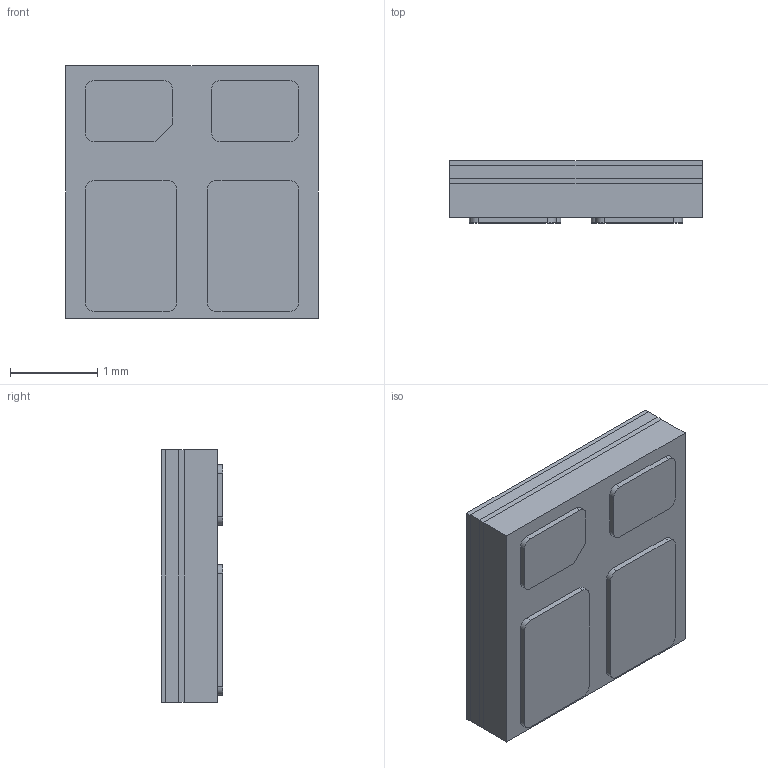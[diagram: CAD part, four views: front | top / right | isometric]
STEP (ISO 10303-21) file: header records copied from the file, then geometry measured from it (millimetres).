
FILE_DESCRIPTION (( 'STEP AP203' ), '1' );
FILE_NAME ('HFL2.STEP', '2019-05-06T06:36:58', ( 'user' ), ( '' ), 'SwSTEP 2.0', 'SolidWorks 2016', '' );
FILE_SCHEMA (( 'CONFIG_CONTROL_DESIGN' ));
Length unit declared in the file: millimetre
Products named in the file (1): HFL2
Bounding box: 2.9 x 0.71 x 2.9 mm (x, y, z)
Volume: 5.9 mm3; surface area: 54.2 mm2
Topology: 3 solids, 3 shells, 175 faces, 486 edges, 324 vertices
Faces by surface type: plane 160, cylinder 15
Entity records: 5615 total; most frequent: CARTESIAN_POINT 986, ORIENTED_EDGE 972, DIRECTION 868, EDGE_CURVE 486, VECTOR 456, LINE 456, VERTEX_POINT 324, AXIS2_PLACEMENT_3D 206
